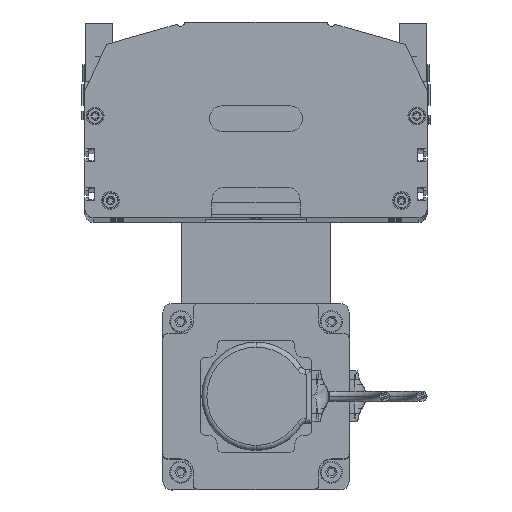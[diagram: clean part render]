
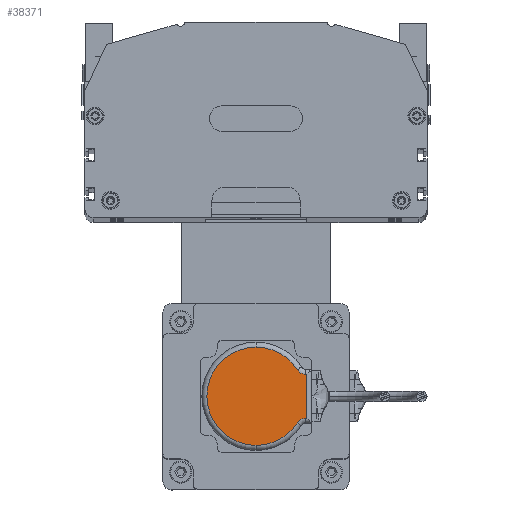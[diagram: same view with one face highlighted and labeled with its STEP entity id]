
A CAD part, top view. The second image highlights one B-rep face of the part: STEP entity #38371.
In plain terms, the highlighted planar face has unit normal (0, 0, 1).
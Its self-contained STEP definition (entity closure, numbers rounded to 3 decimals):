
#38227 = VERTEX_POINT ( 'NONE', #64690 ) ;
#38241 = VERTEX_POINT ( 'NONE', #64701 ) ;
#38362 = ORIENTED_EDGE ( 'NONE', *, *, #38366, .T. ) ;
#38364 = VERTEX_POINT ( 'NONE', #64832 ) ;
#38366 = EDGE_CURVE ( 'NONE', #38368, #38549, #64958, .T. ) ;
#38368 = VERTEX_POINT ( 'NONE', #64838 ) ;
#38371 = ADVANCED_FACE ( 'NONE', ( #64965 ), #65067, .T. ) ;
#38374 = EDGE_LOOP ( 'NONE', ( #38589, #38595, #38548, #38412, #38421, #38448, #38362, #38445 ) ) ;
#38377 = EDGE_CURVE ( 'NONE', #38559, #38404, #64770, .T. ) ;
#38404 = VERTEX_POINT ( 'NONE', #64791 ) ;
#38412 = ORIENTED_EDGE ( 'NONE', *, *, #38562, .T. ) ;
#38421 = ORIENTED_EDGE ( 'NONE', *, *, #38377, .F. ) ;
#38445 = ORIENTED_EDGE ( 'NONE', *, *, #38591, .T. ) ;
#38448 = ORIENTED_EDGE ( 'NONE', *, *, #38552, .T. ) ;
#38459 = VERTEX_POINT ( 'NONE', #64981 ) ;
#38490 = EDGE_CURVE ( 'NONE', #38459, #38241, #63094, .T. ) ;
#38548 = ORIENTED_EDGE ( 'NONE', *, *, #38587, .T. ) ;
#38549 = VERTEX_POINT ( 'NONE', #65712 ) ;
#38552 = EDGE_CURVE ( 'NONE', #38559, #38368, #65708, .T. ) ;
#38559 = VERTEX_POINT ( 'NONE', #65345 ) ;
#38562 = EDGE_CURVE ( 'NONE', #38227, #38404, #65658, .T. ) ;
#38563 = EDGE_CURVE ( 'NONE', #38459, #38364, #65734, .T. ) ;
#38587 = EDGE_CURVE ( 'NONE', #38241, #38227, #65213, .T. ) ;
#38589 = ORIENTED_EDGE ( 'NONE', *, *, #38563, .F. ) ;
#38591 = EDGE_CURVE ( 'NONE', #38549, #38364, #65417, .T. ) ;
#38595 = ORIENTED_EDGE ( 'NONE', *, *, #38490, .T. ) ;
#63094 = CIRCLE ( 'NONE', #63575, 29. ) ;
#63572 = DIRECTION ( 'NONE',  ( 0., 0., 1. ) ) ;
#63573 = CARTESIAN_POINT ( 'NONE',  ( 33., 33., 25. ) ) ;
#63575 = AXIS2_PLACEMENT_3D ( 'NONE', #63573, #63572, #63736 ) ;
#63736 = DIRECTION ( 'NONE',  ( 1., 0., 0. ) ) ;
#64690 = CARTESIAN_POINT ( 'NONE',  ( 62., 33., 25. ) ) ;
#64701 = CARTESIAN_POINT ( 'NONE',  ( 4., 33., 25. ) ) ;
#64770 = CIRCLE ( 'NONE', #64968, 6. ) ;
#64791 = CARTESIAN_POINT ( 'NONE',  ( 48.743, 57.355, 25. ) ) ;
#64807 = CARTESIAN_POINT ( 'NONE',  ( 17.5, 63., 25. ) ) ;
#64832 = CARTESIAN_POINT ( 'NONE',  ( 20., 62.394, 25. ) ) ;
#64838 = CARTESIAN_POINT ( 'NONE',  ( 46., 63., 25. ) ) ;
#64839 = CARTESIAN_POINT ( 'NONE',  ( 52., 62.394, 25. ) ) ;
#64840 = DIRECTION ( 'NONE',  ( -1., 0., 0. ) ) ;
#64842 = VECTOR ( 'NONE', #64840, 1000. ) ;
#64914 = DIRECTION ( 'NONE',  ( 1., 0., 0. ) ) ;
#64958 = LINE ( 'NONE', #64807, #64842 ) ;
#64961 = CARTESIAN_POINT ( 'NONE',  ( 33., 33., 25. ) ) ;
#64965 = FACE_OUTER_BOUND ( 'NONE', #38374, .T. ) ;
#64966 = DIRECTION ( 'NONE',  ( 0., 0., 1. ) ) ;
#64967 = DIRECTION ( 'NONE',  ( 0., 0., 1. ) ) ;
#64968 = AXIS2_PLACEMENT_3D ( 'NONE', #64839, #64967, #64977 ) ;
#64977 = DIRECTION ( 'NONE',  ( 1., 0., 0. ) ) ;
#64981 = CARTESIAN_POINT ( 'NONE',  ( 17.257, 57.355, 25. ) ) ;
#65050 = AXIS2_PLACEMENT_3D ( 'NONE', #64961, #64966, #64914 ) ;
#65067 = PLANE ( 'NONE',  #65050 ) ;
#65213 = CIRCLE ( 'NONE', #65473, 29. ) ;
#65295 = VECTOR ( 'NONE', #65739, 1000. ) ;
#65345 = CARTESIAN_POINT ( 'NONE',  ( 46., 62.394, 25. ) ) ;
#65416 = CARTESIAN_POINT ( 'NONE',  ( 20., 33., 25. ) ) ;
#65417 = LINE ( 'NONE', #65416, #65295 ) ;
#65471 = DIRECTION ( 'NONE',  ( 1., 0., 0. ) ) ;
#65472 = DIRECTION ( 'NONE',  ( 0., 0., 1. ) ) ;
#65473 = AXIS2_PLACEMENT_3D ( 'NONE', #65503, #65472, #65471 ) ;
#65484 = AXIS2_PLACEMENT_3D ( 'NONE', #65536, #65535, #65497 ) ;
#65497 = DIRECTION ( 'NONE',  ( 1., 0., 0. ) ) ;
#65503 = CARTESIAN_POINT ( 'NONE',  ( 33., 33., 25. ) ) ;
#65506 = DIRECTION ( 'NONE',  ( 0., 1., 0. ) ) ;
#65508 = VECTOR ( 'NONE', #65506, 1000. ) ;
#65509 = CARTESIAN_POINT ( 'NONE',  ( 46., 33., 25. ) ) ;
#65535 = DIRECTION ( 'NONE',  ( 0., 0., 1. ) ) ;
#65536 = CARTESIAN_POINT ( 'NONE',  ( 33., 33., 25. ) ) ;
#65595 = AXIS2_PLACEMENT_3D ( 'NONE', #65600, #65598, #65665 ) ;
#65598 = DIRECTION ( 'NONE',  ( 0., 0., 1. ) ) ;
#65600 = CARTESIAN_POINT ( 'NONE',  ( 14., 62.394, 25. ) ) ;
#65658 = CIRCLE ( 'NONE', #65484, 29. ) ;
#65665 = DIRECTION ( 'NONE',  ( 1., 0., 0. ) ) ;
#65708 = LINE ( 'NONE', #65509, #65508 ) ;
#65712 = CARTESIAN_POINT ( 'NONE',  ( 20., 63., 25. ) ) ;
#65734 = CIRCLE ( 'NONE', #65595, 6. ) ;
#65739 = DIRECTION ( 'NONE',  ( 0., -1., 0. ) ) ;
